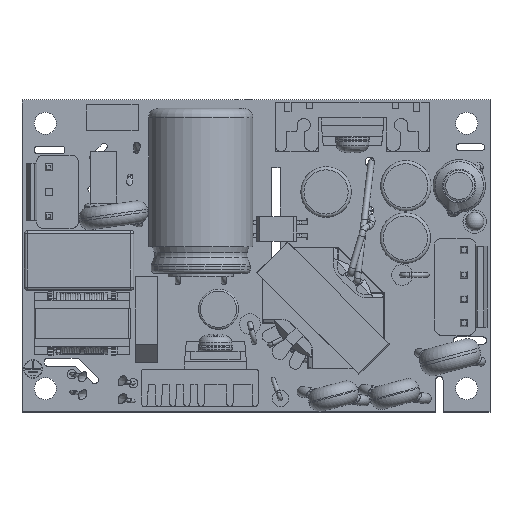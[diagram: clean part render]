
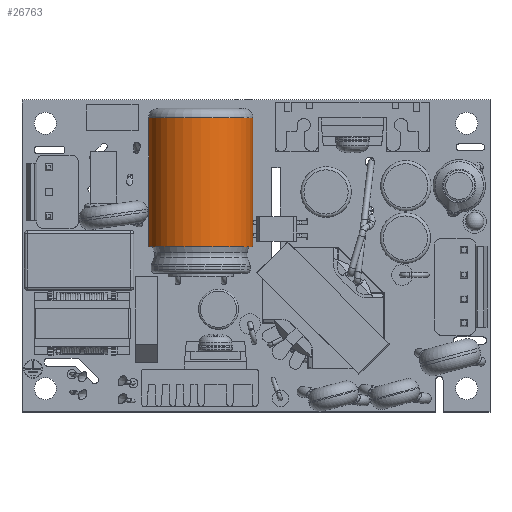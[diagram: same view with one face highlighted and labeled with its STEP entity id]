
A CAD part, top view. The second image highlights one B-rep face of the part: STEP entity #26763.
In plain terms, the highlighted cylindrical face has radius 8.5 mm (diameter 17 mm), a full revolution.
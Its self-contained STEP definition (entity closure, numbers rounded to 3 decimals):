
#398 = EDGE_LOOP ( 'NONE', ( #27109 ) ) ;
#1401 = DIRECTION ( 'NONE',  ( 1., 0., 0. ) ) ;
#1673 = DIRECTION ( 'NONE',  ( 1., 0., 0. ) ) ;
#10401 = FACE_OUTER_BOUND ( 'NONE', #398, .T. ) ;
#11131 = CIRCLE ( 'NONE', #17776, 8.5 ) ;
#12470 = FACE_OUTER_BOUND ( 'NONE', #25762, .T. ) ;
#15722 = AXIS2_PLACEMENT_3D ( 'NONE', #43957, #23212, #1401 ) ;
#17776 = AXIS2_PLACEMENT_3D ( 'NONE', #23479, #34182, #1673 ) ;
#19226 = AXIS2_PLACEMENT_3D ( 'NONE', #46136, #19852, #40939 ) ;
#19852 = DIRECTION ( 'NONE',  ( 0., -1., 0. ) ) ;
#20647 = CARTESIAN_POINT ( 'NONE',  ( -0.5, 1.5, 9. ) ) ;
#23212 = DIRECTION ( 'NONE',  ( 0., -1., 0. ) ) ;
#23479 = CARTESIAN_POINT ( 'NONE',  ( -9., 1.5, 9. ) ) ;
#24441 = EDGE_CURVE ( 'NONE', #58317, #58317, #11131, .T. ) ;
#25762 = EDGE_LOOP ( 'NONE', ( #50284 ) ) ;
#26763 = ADVANCED_FACE ( 'NONE', ( #10401, #12470 ), #43251, .T. ) ;
#27109 = ORIENTED_EDGE ( 'NONE', *, *, #24441, .F. ) ;
#33184 = EDGE_CURVE ( 'NONE', #50687, #50687, #49014, .T. ) ;
#34182 = DIRECTION ( 'NONE',  ( 0., -1., 0. ) ) ;
#40939 = DIRECTION ( 'NONE',  ( 1., 0., 0. ) ) ;
#43251 = CYLINDRICAL_SURFACE ( 'NONE', #15722, 8.5 ) ;
#43957 = CARTESIAN_POINT ( 'NONE',  ( -9., -2.8, 9. ) ) ;
#46136 = CARTESIAN_POINT ( 'NONE',  ( -9., 22.5, 9. ) ) ;
#49014 = CIRCLE ( 'NONE', #19226, 8.5 ) ;
#50284 = ORIENTED_EDGE ( 'NONE', *, *, #33184, .T. ) ;
#50687 = VERTEX_POINT ( 'NONE', #61735 ) ;
#58317 = VERTEX_POINT ( 'NONE', #20647 ) ;
#61735 = CARTESIAN_POINT ( 'NONE',  ( -0.5, 22.5, 9. ) ) ;
